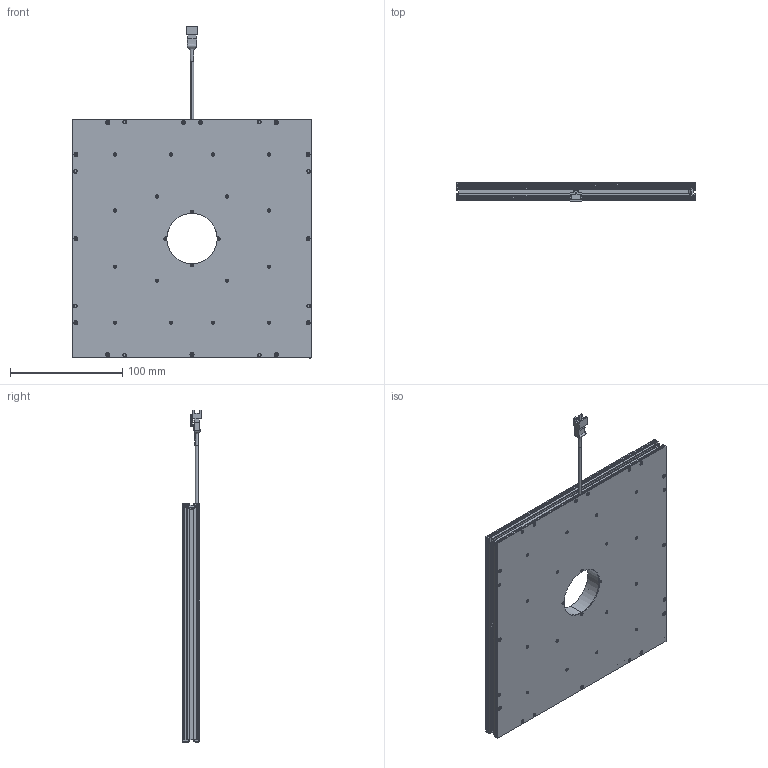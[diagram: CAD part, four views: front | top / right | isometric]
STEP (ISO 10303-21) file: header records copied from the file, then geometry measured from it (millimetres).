
FILE_DESCRIPTION (( 'STEP AP214' ), '1' );
FILE_NAME ('TMDF3018D102A_VDFHP-200200.STEP', '2023-04-13T05:56:31', ( '' ), ( '' ), 'SwSTEP 2.0', 'SolidWorks 2018', '' );
FILE_SCHEMA (( 'AUTOMOTIVE_DESIGN' ));
Length unit declared in the file: millimetre
Products named in the file (1): TMDF3018D102A_VDFHP-200200
Bounding box: 213 x 16.55 x 296.06 mm (x, y, z)
Surface area: 172080.2 mm2 (no closed solid volume)
Topology: 0 solids, 62 shells, 712 faces, 2607 edges, 1929 vertices
Faces by surface type: plane 434, cylinder 198, cone 78, bspline 2
Entity records: 36933 total; most frequent: CARTESIAN_POINT 6819, DIRECTION 4623, ORIENTED_EDGE 3994, EDGE_CURVE 2607, VERTEX_POINT 1929, LINE 1833, VECTOR 1833, AXIS2_PLACEMENT_3D 1395
